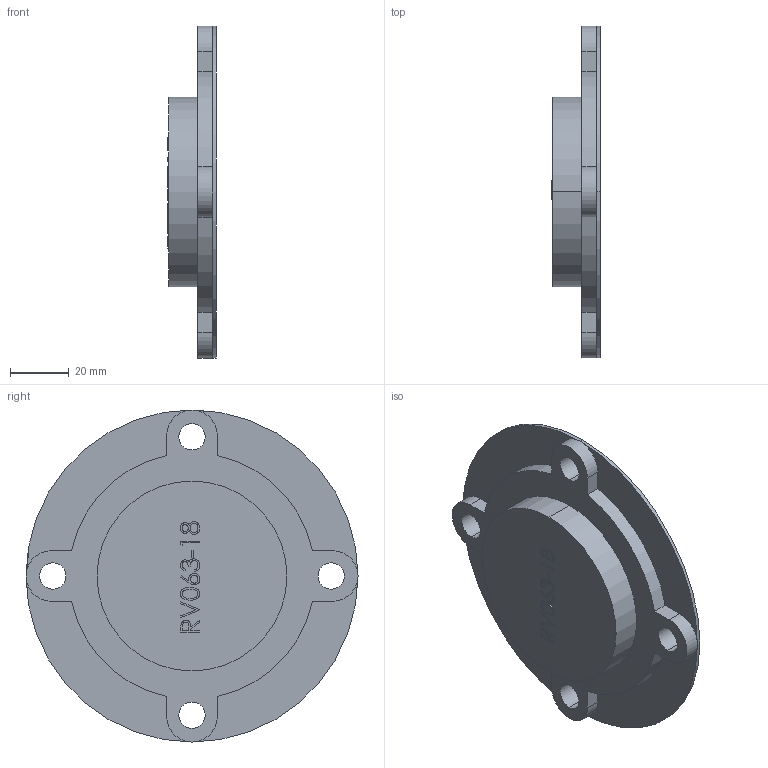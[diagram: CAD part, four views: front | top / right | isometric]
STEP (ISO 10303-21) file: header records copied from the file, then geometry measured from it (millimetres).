
FILE_DESCRIPTION (( 'STEP AP203' ), '1' );
FILE_NAME ('CALM63-OPC.STEP', '2014-09-02T03:46:05', ( 'user' ), ( '' ), 'SwSTEP 2.0', 'SolidWorks 2012', '' );
FILE_SCHEMA (( 'CONFIG_CONTROL_DESIGN' ));
Length unit declared in the file: millimetre
Products named in the file (1): CALM63-OPC
Bounding box: 16.5 x 113.3 x 113.3 mm (x, y, z)
Volume: 18619.4 mm3; surface area: 27960.5 mm2
Topology: 1 solids, 1 shells, 143 faces, 368 edges, 243 vertices
Faces by surface type: plane 64, bspline 54, cylinder 25
Entity records: 7518 total; most frequent: CARTESIAN_POINT 4257, ORIENTED_EDGE 736, DIRECTION 495, EDGE_CURVE 368, VERTEX_POINT 243, LINE 205, VECTOR 205, EDGE_LOOP 167
